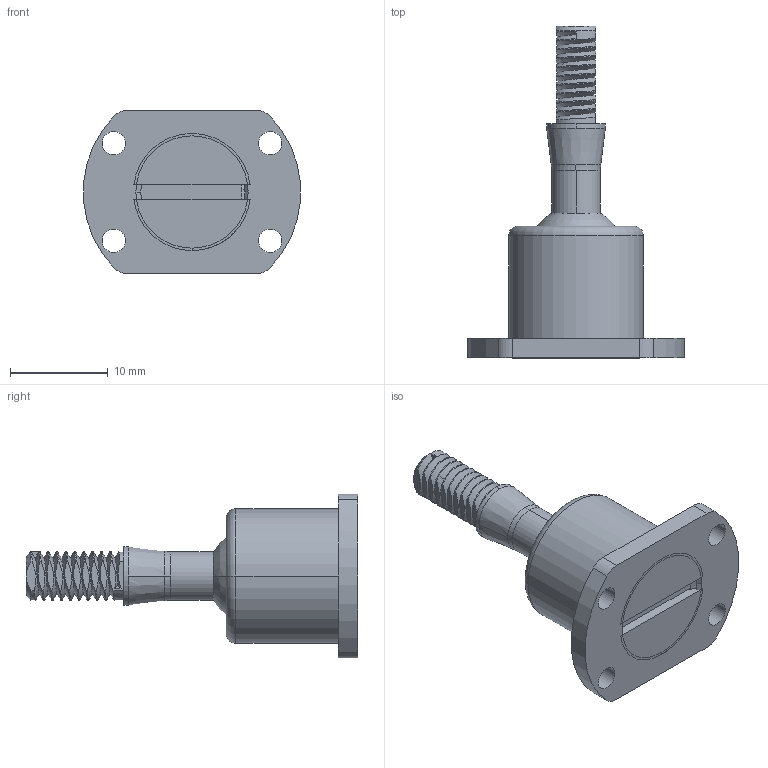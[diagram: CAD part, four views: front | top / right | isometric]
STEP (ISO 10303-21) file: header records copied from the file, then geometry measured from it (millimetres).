
FILE_DESCRIPTION((''),'2;1');
FILE_NAME('XG11-115_ASM','2025-03-04T10:59:30',('haicaihuang'),(''),'CREO PARAMETRIC BY PTC INC, 2018050','CREO PARAMETRIC BY PTC INC, 2018050','');
FILE_SCHEMA(('CONFIG_CONTROL_DESIGN'));
Length unit declared in the file: millimetre
Products named in the file (6): PRT0001; PRT0002; PRT0003; 245-0005-0059; RING; XG11-115_ASM
Assembly tree (6 placements, depth 2):
  XG11-115_ASM
    PRT0001
    PRT0002
    PRT0003
    245-0005-0059  x2
    RING
Bounding box: 22.22 x 34 x 16.8 mm (x, y, z)
Volume: 2470.9 mm3; surface area: 3457.6 mm2
Topology: 6 solids, 6 shells, 160 faces, 404 edges, 258 vertices
Faces by surface type: cylinder 64, plane 48, cone 27, bspline 13, torus 4, sphere 4
Entity records: 8264 total; most frequent: CARTESIAN_POINT 4721, ORIENTED_EDGE 748, DIRECTION 655, EDGE_CURVE 374, AXIS2_PLACEMENT_3D 260, VERTEX_POINT 242, EDGE_LOOP 164, FACE_OUTER_BOUND 147
